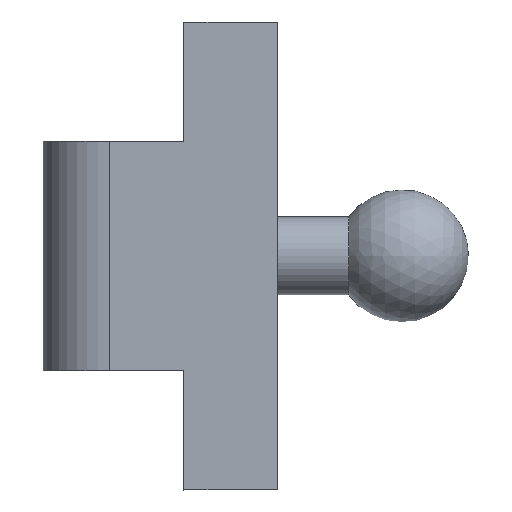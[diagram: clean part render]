
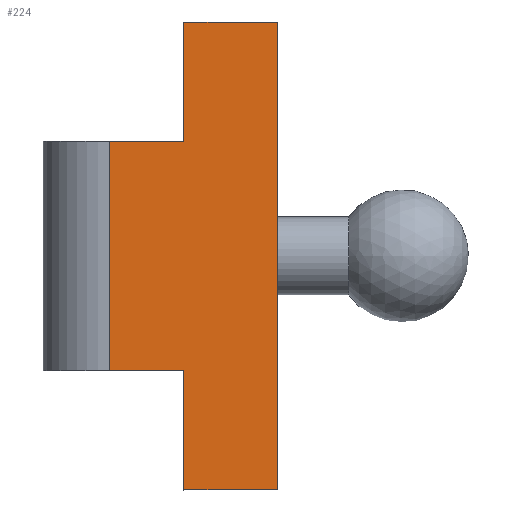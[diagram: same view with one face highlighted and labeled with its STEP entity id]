
A CAD part, front view. The second image highlights one B-rep face of the part: STEP entity #224.
In plain terms, the highlighted planar face has unit normal (0, -1, 0).
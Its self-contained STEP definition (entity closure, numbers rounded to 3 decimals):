
#23=LINE('',#321,#45);
#28=LINE('',#332,#50);
#29=LINE('',#338,#51);
#33=LINE('',#346,#55);
#35=LINE('',#354,#57);
#38=LINE('',#360,#60);
#39=LINE('',#361,#61);
#40=LINE('',#362,#62);
#45=VECTOR('',#260,10.);
#50=VECTOR('',#269,10.);
#51=VECTOR('',#274,10.);
#55=VECTOR('',#280,10.);
#57=VECTOR('',#288,10.);
#60=VECTOR('',#293,10.);
#61=VECTOR('',#294,10.);
#62=VECTOR('',#295,10.);
#72=PLANE('',#244);
#82=FACE_OUTER_BOUND('',#97,.T.);
#97=EDGE_LOOP('',(#184,#185,#186,#187,#188,#189,#190,#191));
#114=VERTEX_POINT('',#319);
#115=VERTEX_POINT('',#320);
#119=VERTEX_POINT('',#329);
#121=VERTEX_POINT('',#336);
#122=VERTEX_POINT('',#337);
#125=VERTEX_POINT('',#345);
#128=VERTEX_POINT('',#353);
#130=VERTEX_POINT('',#359);
#134=EDGE_CURVE('',#114,#115,#23,.T.);
#140=EDGE_CURVE('',#119,#114,#28,.T.);
#142=EDGE_CURVE('',#121,#122,#29,.T.);
#146=EDGE_CURVE('',#122,#125,#33,.T.);
#150=EDGE_CURVE('',#121,#128,#35,.T.);
#153=EDGE_CURVE('',#130,#115,#38,.T.);
#154=EDGE_CURVE('',#128,#130,#39,.T.);
#155=EDGE_CURVE('',#119,#125,#40,.T.);
#184=ORIENTED_EDGE('',*,*,#140,.T.);
#185=ORIENTED_EDGE('',*,*,#134,.T.);
#186=ORIENTED_EDGE('',*,*,#153,.F.);
#187=ORIENTED_EDGE('',*,*,#154,.F.);
#188=ORIENTED_EDGE('',*,*,#150,.F.);
#189=ORIENTED_EDGE('',*,*,#142,.T.);
#190=ORIENTED_EDGE('',*,*,#146,.T.);
#191=ORIENTED_EDGE('',*,*,#155,.F.);
#224=ADVANCED_FACE('',(#82),#72,.F.);
#244=AXIS2_PLACEMENT_3D('',#358,#291,#292);
#260=DIRECTION('',(0.,0.,-1.));
#269=DIRECTION('',(1.,0.,0.));
#274=DIRECTION('',(0.,0.,-1.));
#280=DIRECTION('',(-1.,0.,0.));
#288=DIRECTION('',(1.,0.,0.));
#291=DIRECTION('center_axis',(0.,1.,0.));
#292=DIRECTION('ref_axis',(1.,0.,0.));
#293=DIRECTION('',(-1.,0.,0.));
#294=DIRECTION('',(0.,0.,-1.));
#295=DIRECTION('',(0.,0.,1.));
#319=CARTESIAN_POINT('',(18.,0.,-44.7));
#320=CARTESIAN_POINT('',(18.,0.,-60.));
#321=CARTESIAN_POINT('',(18.,0.,-45.));
#329=CARTESIAN_POINT('',(8.5,0.,-44.7));
#332=CARTESIAN_POINT('',(16.5,0.,-44.7));
#336=CARTESIAN_POINT('',(18.,0.,0.));
#337=CARTESIAN_POINT('',(18.,0.,-15.3));
#338=CARTESIAN_POINT('',(18.,0.,-22.65));
#345=CARTESIAN_POINT('',(8.5,0.,-15.3));
#346=CARTESIAN_POINT('',(7.5,0.,-15.3));
#353=CARTESIAN_POINT('',(30.,0.,0.));
#354=CARTESIAN_POINT('',(0.,0.,0.));
#358=CARTESIAN_POINT('Origin',(15.,0.,-30.));
#359=CARTESIAN_POINT('',(30.,0.,-60.));
#360=CARTESIAN_POINT('',(30.,0.,-60.));
#361=CARTESIAN_POINT('',(30.,0.,0.));
#362=CARTESIAN_POINT('',(8.5,0.,-45.));
